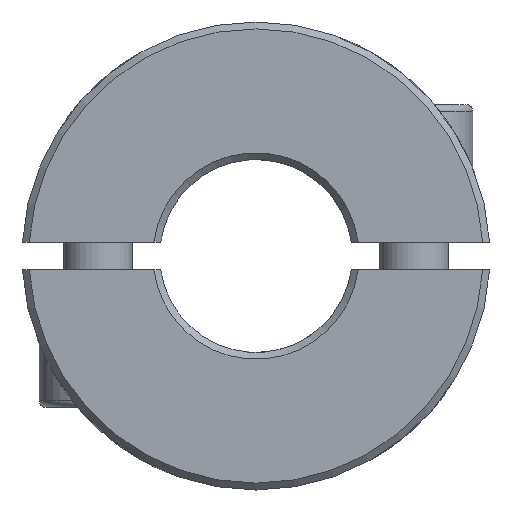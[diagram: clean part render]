
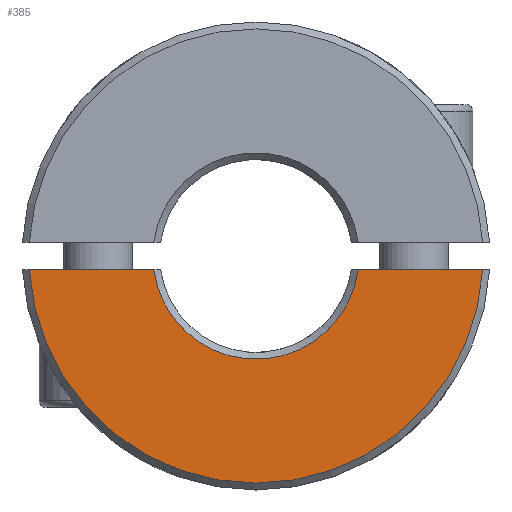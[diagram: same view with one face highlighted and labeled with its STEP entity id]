
A CAD part, front view. The second image highlights one B-rep face of the part: STEP entity #385.
In plain terms, the highlighted planar face has unit normal (0, -1, 0).
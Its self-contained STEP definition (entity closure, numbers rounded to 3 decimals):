
#385 = ADVANCED_FACE( '', ( #745 ), #746, .F. );
#745 = FACE_OUTER_BOUND( '', #1065, .T. );
#746 = PLANE( '', #1066 );
#1065 = EDGE_LOOP( '', ( #1693, #1694, #1695, #1696 ) );
#1066 = AXIS2_PLACEMENT_3D( '', #1697, #1698, #1699 );
#1693 = ORIENTED_EDGE( '', *, *, #1940, .F. );
#1694 = ORIENTED_EDGE( '', *, *, #1819, .T. );
#1695 = ORIENTED_EDGE( '', *, *, #1741, .F. );
#1696 = ORIENTED_EDGE( '', *, *, #1757, .T. );
#1697 = CARTESIAN_POINT( '', ( 0., -50., 0. ) );
#1698 = DIRECTION( '', ( 0., 1., 0. ) );
#1699 = DIRECTION( '', ( 0., 0., 1. ) );
#1741 = EDGE_CURVE( '', #1994, #1995, #1996, .T. );
#1757 = EDGE_CURVE( '', #1994, #2022, #2024, .T. );
#1819 = EDGE_CURVE( '', #2125, #1995, #2126, .F. );
#1940 = EDGE_CURVE( '', #2125, #2022, #2293, .T. );
#1994 = VERTEX_POINT( '', #2366 );
#1995 = VERTEX_POINT( '', #2367 );
#1996 = LINE( '', #2368, #2369 );
#2022 = VERTEX_POINT( '', #2406 );
#2024 = CIRCLE( '', #2411, 7.5 );
#2125 = VERTEX_POINT( '', #2673 );
#2126 = CIRCLE( '', #2674, 16.5 );
#2293 = LINE( '', #3746, #3747 );
#2366 = CARTESIAN_POINT( '', ( 7.433, -50., -1. ) );
#2367 = CARTESIAN_POINT( '', ( 16.47, -50., -1. ) );
#2368 = CARTESIAN_POINT( '', ( 0., -50., -1. ) );
#2369 = VECTOR( '', #3801, 1000. );
#2406 = CARTESIAN_POINT( '', ( -7.433, -50., -1. ) );
#2411 = AXIS2_PLACEMENT_3D( '', #3822, #3823, #3824 );
#2673 = CARTESIAN_POINT( '', ( -16.47, -50., -1. ) );
#2674 = AXIS2_PLACEMENT_3D( '', #3910, #3911, #3912 );
#3746 = CARTESIAN_POINT( '', ( 0., -50., -1. ) );
#3747 = VECTOR( '', #4027, 1000. );
#3801 = DIRECTION( '', ( 1., 0., 0. ) );
#3822 = CARTESIAN_POINT( '', ( 0., -50., 0. ) );
#3823 = DIRECTION( '', ( 0., 1., 0. ) );
#3824 = DIRECTION( '', ( 0., 0., 1. ) );
#3910 = CARTESIAN_POINT( '', ( 0., -50., 0. ) );
#3911 = DIRECTION( '', ( 0., 1., 0. ) );
#3912 = DIRECTION( '', ( 0., 0., 1. ) );
#4027 = DIRECTION( '', ( 1., 0., 0. ) );
